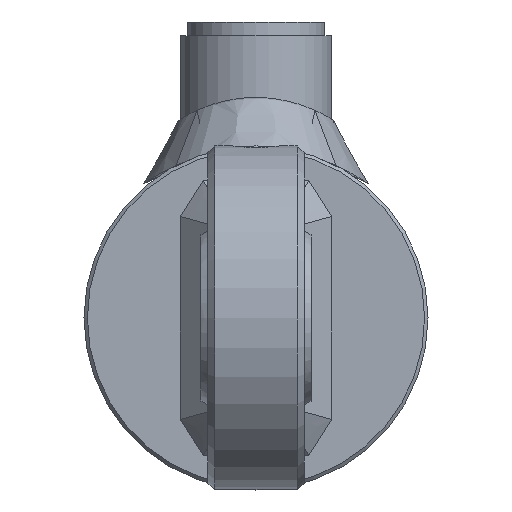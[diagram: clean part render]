
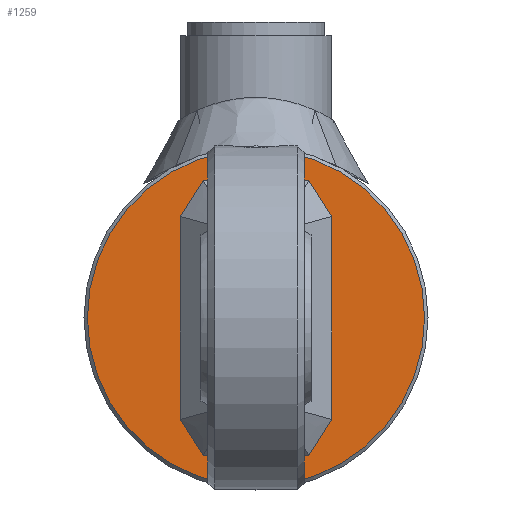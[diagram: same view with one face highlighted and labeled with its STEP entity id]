
A CAD part, left-side view. The second image highlights one B-rep face of the part: STEP entity #1259.
In plain terms, the highlighted planar face has unit normal (-1, 0, 0).
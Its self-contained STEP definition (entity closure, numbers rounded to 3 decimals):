
#1259 = ADVANCED_FACE( '', ( #2368 ), #2369, .T. );
#2368 = FACE_OUTER_BOUND( '', #7656, .T. );
#2369 = PLANE( '', #7657 );
#7656 = EDGE_LOOP( '', ( #10617 ) );
#7657 = AXIS2_PLACEMENT_3D( '', #10618, #10619, #10620 );
#10617 = ORIENTED_EDGE( '', *, *, #11649, .T. );
#10618 = CARTESIAN_POINT( '', ( -10., 0., 0. ) );
#10619 = DIRECTION( '', ( -1., 0., 0. ) );
#10620 = DIRECTION( '', ( 0., -1., 0. ) );
#11649 = EDGE_CURVE( '', #12912, #12912, #12913, .T. );
#12912 = VERTEX_POINT( '', #16160 );
#12913 = CIRCLE( '', #16161, 24.5 );
#16160 = CARTESIAN_POINT( '', ( -10., -24.5, 0. ) );
#16161 = AXIS2_PLACEMENT_3D( '', #16984, #16985, #16986 );
#16984 = CARTESIAN_POINT( '', ( -10., 0., 0. ) );
#16985 = DIRECTION( '', ( -1., 0., 0. ) );
#16986 = DIRECTION( '', ( 0., -1., 0. ) );
